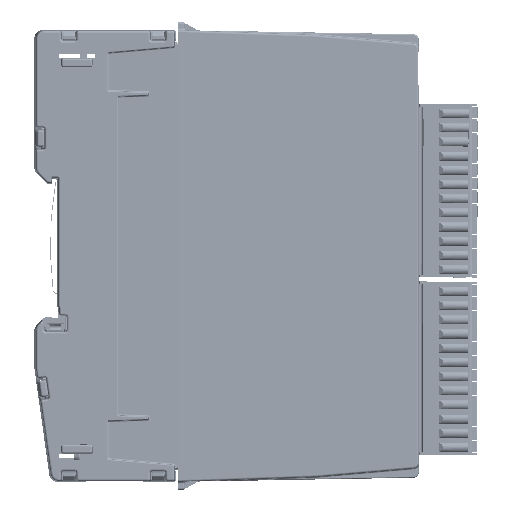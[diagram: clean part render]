
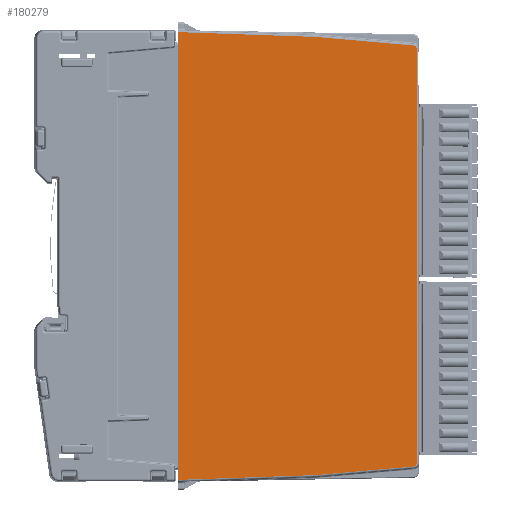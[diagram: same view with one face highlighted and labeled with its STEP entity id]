
A CAD part, left-side view. The second image highlights one B-rep face of the part: STEP entity #180279.
In plain terms, the highlighted planar face has unit normal (-1, -0.018, 0).
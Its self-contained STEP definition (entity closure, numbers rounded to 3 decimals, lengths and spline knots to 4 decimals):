
#2360=ELLIPSE('',#193537,0.0315,0.0315);
#2361=ELLIPSE('',#193538,0.0315,0.0315);
#10024=PLANE('',#193536);
#18109=FACE_OUTER_BOUND('',#28085,.T.);
#28085=EDGE_LOOP('',(#147345,#147346,#147347,#147348,#147349,#147350,#147351,
#147352,#147353,#147354));
#49945=LINE('',#299035,#67729);
#49946=LINE('',#299037,#67730);
#49947=LINE('',#299039,#67731);
#49948=LINE('',#299041,#67732);
#49949=LINE('',#299043,#67733);
#49950=LINE('',#299047,#67734);
#49951=LINE('',#299051,#67735);
#49952=LINE('',#299052,#67736);
#67729=VECTOR('',#230020,39.3701);
#67730=VECTOR('',#230021,39.3701);
#67731=VECTOR('',#230022,39.3701);
#67732=VECTOR('',#230023,39.3701);
#67733=VECTOR('',#230024,39.3701);
#67734=VECTOR('',#230027,39.3701);
#67735=VECTOR('',#230030,39.3701);
#67736=VECTOR('',#230031,39.3701);
#84167=VERTEX_POINT('',#299033);
#84168=VERTEX_POINT('',#299034);
#84169=VERTEX_POINT('',#299036);
#84170=VERTEX_POINT('',#299038);
#84171=VERTEX_POINT('',#299040);
#84172=VERTEX_POINT('',#299042);
#84173=VERTEX_POINT('',#299044);
#84174=VERTEX_POINT('',#299046);
#84175=VERTEX_POINT('',#299048);
#84176=VERTEX_POINT('',#299050);
#106161=EDGE_CURVE('',#84167,#84168,#49945,.T.);
#106162=EDGE_CURVE('',#84169,#84168,#49946,.T.);
#106163=EDGE_CURVE('',#84169,#84170,#49947,.T.);
#106164=EDGE_CURVE('',#84170,#84171,#49948,.T.);
#106165=EDGE_CURVE('',#84171,#84172,#49949,.T.);
#106166=EDGE_CURVE('',#84172,#84173,#2360,.T.);
#106167=EDGE_CURVE('',#84173,#84174,#49950,.T.);
#106168=EDGE_CURVE('',#84174,#84175,#2361,.T.);
#106169=EDGE_CURVE('',#84175,#84176,#49951,.T.);
#106170=EDGE_CURVE('',#84176,#84167,#49952,.T.);
#147345=ORIENTED_EDGE('',*,*,#106161,.T.);
#147346=ORIENTED_EDGE('',*,*,#106162,.F.);
#147347=ORIENTED_EDGE('',*,*,#106163,.T.);
#147348=ORIENTED_EDGE('',*,*,#106164,.T.);
#147349=ORIENTED_EDGE('',*,*,#106165,.T.);
#147350=ORIENTED_EDGE('',*,*,#106166,.T.);
#147351=ORIENTED_EDGE('',*,*,#106167,.T.);
#147352=ORIENTED_EDGE('',*,*,#106168,.T.);
#147353=ORIENTED_EDGE('',*,*,#106169,.T.);
#147354=ORIENTED_EDGE('',*,*,#106170,.T.);
#180279=ADVANCED_FACE('',(#18109),#10024,.T.);
#193536=AXIS2_PLACEMENT_3D('',#299032,#230018,#230019);
#193537=AXIS2_PLACEMENT_3D('',#299045,#230025,#230026);
#193538=AXIS2_PLACEMENT_3D('',#299049,#230028,#230029);
#230018=DIRECTION('center_axis',(-1.,-0.017,
0.));
#230019=DIRECTION('ref_axis',(-0.017,1.,0.));
#230020=DIRECTION('',(0.,0.,-1.));
#230021=DIRECTION('',(0.,0.,1.));
#230022=DIRECTION('',(0.,0.,-1.));
#230023=DIRECTION('',(0.017,-0.999,0.035));
#230024=DIRECTION('',(0.017,-0.996,0.087));
#230025=DIRECTION('center_axis',(-1.,-0.017,
0.));
#230026=DIRECTION('ref_axis',(0.017,-1.,0.));
#230027=DIRECTION('',(0.,0.,1.));
#230028=DIRECTION('center_axis',(-1.,-0.017,
0.));
#230029=DIRECTION('ref_axis',(0.017,-1.,0.));
#230030=DIRECTION('',(-0.017,0.996,0.087));
#230031=DIRECTION('',(-0.017,0.999,0.035));
#299032=CARTESIAN_POINT('Origin',(-0.0296,-0.489,
-2.0669));
#299033=CARTESIAN_POINT('',(-0.0227,-0.8827,0.1083));
#299034=CARTESIAN_POINT('',(-0.0227,-0.8827,-0.0312));
#299035=CARTESIAN_POINT('',(-0.0227,-0.8827,0.128));
#299036=CARTESIAN_POINT('',(-0.0227,-0.8827,-4.1027));
#299037=CARTESIAN_POINT('',(-0.0227,-0.8827,-7.5932));
#299038=CARTESIAN_POINT('',(-0.0227,-0.8827,-4.2421));
#299039=CARTESIAN_POINT('',(-0.0227,-0.8827,0.128));
#299040=CARTESIAN_POINT('',(0.0007,-2.2205,-4.1954));
#299041=CARTESIAN_POINT('',(-0.0282,-0.5654,-4.2532));
#299042=CARTESIAN_POINT('',(0.0174,-3.1772,-4.1117));
#299043=CARTESIAN_POINT('',(-0.0261,-0.6869,-4.3296));
#299044=CARTESIAN_POINT('',(0.0179,-3.2059,-4.0803));
#299045=CARTESIAN_POINT('Origin',(0.0173,-3.1744,
-4.0803));
#299046=CARTESIAN_POINT('',(0.0179,-3.2059,-0.0535));
#299047=CARTESIAN_POINT('',(0.0179,-3.2059,-0.0535));
#299048=CARTESIAN_POINT('',(0.0174,-3.1772,-0.0221));
#299049=CARTESIAN_POINT('Origin',(0.0173,-3.1744,
-0.0535));
#299050=CARTESIAN_POINT('',(0.0007,-2.2205,0.0616));
#299051=CARTESIAN_POINT('',(-0.0261,-0.6869,0.1957));
#299052=CARTESIAN_POINT('',(-0.0282,-0.5654,0.1194));
